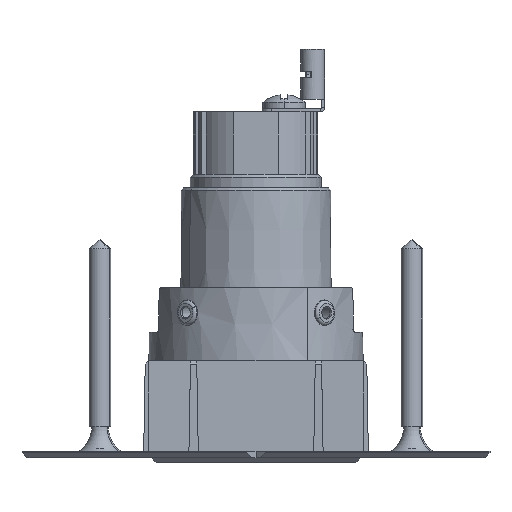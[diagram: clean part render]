
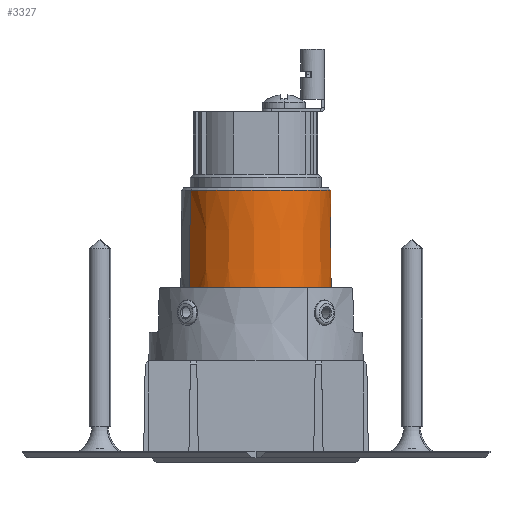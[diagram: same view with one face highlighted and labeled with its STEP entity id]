
A CAD part, left-side view. The second image highlights one B-rep face of the part: STEP entity #3327.
In plain terms, the highlighted conical face has half-angle 0.5 degrees and reference radius 12.085 mm.
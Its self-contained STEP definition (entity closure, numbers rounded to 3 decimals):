
#1129=DIRECTION('',(0.004,-0.008,-1.));
#1130=VECTOR('',#1129,18.791);
#1131=CARTESIAN_POINT('',(5.755,-10.534,43.6));
#1132=LINE('',#1131,#1130);
#1133=CARTESIAN_POINT('',(0.,0.,43.6));
#1134=DIRECTION('',(0.,0.,-1.));
#1135=DIRECTION('',(0.479,-0.878,0.));
#1136=AXIS2_PLACEMENT_3D('',#1133,#1134,#1135);
#1138=CARTESIAN_POINT('',(0.,0.,24.81));
#1139=DIRECTION('',(0.,0.,1.));
#1140=DIRECTION('',(-0.878,0.479,0.));
#1141=AXIS2_PLACEMENT_3D('',#1138,#1139,#1140);
#1143=DIRECTION('',(-0.004,0.008,-1.));
#1144=VECTOR('',#1143,18.791);
#1145=CARTESIAN_POINT('',(-5.755,10.534,43.6));
#1146=LINE('',#1145,#1144);
#1151=CARTESIAN_POINT('',(0.,0.,24.81));
#1152=DIRECTION('',(0.,0.,-1.));
#1153=DIRECTION('',(-0.878,0.479,0.));
#1154=AXIS2_PLACEMENT_3D('',#1151,#1152,#1153);
#1628=CARTESIAN_POINT('',(-10.678,5.833,24.81));
#1629=VERTEX_POINT('',#1628);
#1630=CARTESIAN_POINT('',(-5.833,10.678,24.81));
#1631=VERTEX_POINT('',#1630);
#1632=CARTESIAN_POINT('',(5.833,-10.678,24.81));
#1633=VERTEX_POINT('',#1632);
#1642=CARTESIAN_POINT('',(-5.755,10.534,43.6));
#1643=CARTESIAN_POINT('',(5.755,-10.534,43.6));
#1644=VERTEX_POINT('',#1642);
#1645=VERTEX_POINT('',#1643);
#3314=CARTESIAN_POINT('',(0.,0.,34.205));
#3315=DIRECTION('',(0.,0.,-1.));
#3316=DIRECTION('',(-0.479,0.878,0.));
#3317=AXIS2_PLACEMENT_3D('',#3314,#3315,#3316);
#3318=CONICAL_SURFACE('',#3317,12.085,0.5);
#3319=ORIENTED_EDGE('',*,*,#3280,.F.);
#3320=ORIENTED_EDGE('',*,*,#3309,.T.);
#3321=ORIENTED_EDGE('',*,*,#1698,.F.);
#3323=ORIENTED_EDGE('',*,*,#3322,.T.);
#3324=ORIENTED_EDGE('',*,*,#3304,.F.);
#3325=EDGE_LOOP('',(#3319,#3320,#3321,#3323,#3324));
#3326=FACE_OUTER_BOUND('',#3325,.F.);
#3327=ADVANCED_FACE('',(#3326),#3318,.T.);
#1137=CIRCLE('',#1136,12.003);
#1142=CIRCLE('',#1141,12.167);
#1155=CIRCLE('',#1154,12.167);
#1698=EDGE_CURVE('',#1629,#1633,#1142,.T.);
#3280=EDGE_CURVE('',#1645,#1644,#1137,.T.);
#3304=EDGE_CURVE('',#1644,#1631,#1146,.T.);
#3309=EDGE_CURVE('',#1645,#1633,#1132,.T.);
#3322=EDGE_CURVE('',#1629,#1631,#1155,.T.);
